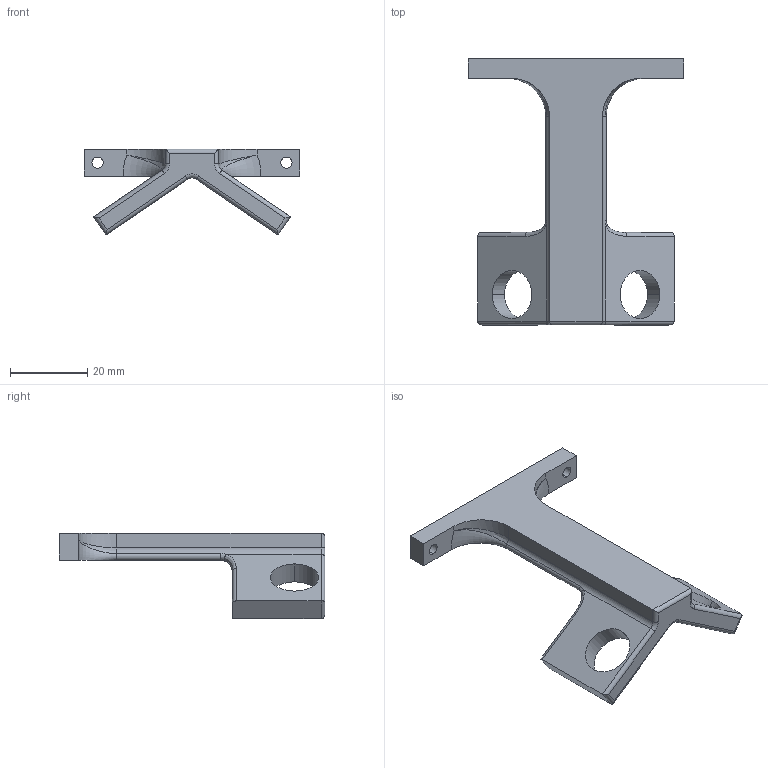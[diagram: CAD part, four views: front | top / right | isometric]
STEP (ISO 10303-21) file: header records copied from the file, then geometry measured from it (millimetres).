
FILE_DESCRIPTION (( 'STEP AP203' ), '1' );
FILE_NAME ('mount_c v2.STEP', '2024-07-13T16:29:17', ( '' ), ( '' ), 'SwSTEP 2.0', 'SolidWorks 2020', '' );
FILE_SCHEMA (( 'CONFIG_CONTROL_DESIGN' ));
Length unit declared in the file: millimetre
Products named in the file (1): mount_c v2
Bounding box: 56 x 69 x 22.2 mm (x, y, z)
Volume: 13471.6 mm3; surface area: 6812 mm2
Topology: 1 solids, 1 shells, 60 faces, 148 edges, 87 vertices
Faces by surface type: cylinder 28, plane 18, bspline 9, torus 5
Entity records: 2474 total; most frequent: CARTESIAN_POINT 1046, ORIENTED_EDGE 290, DIRECTION 270, EDGE_CURVE 145, AXIS2_PLACEMENT_3D 98, VERTEX_POINT 87, LINE 74, VECTOR 74
